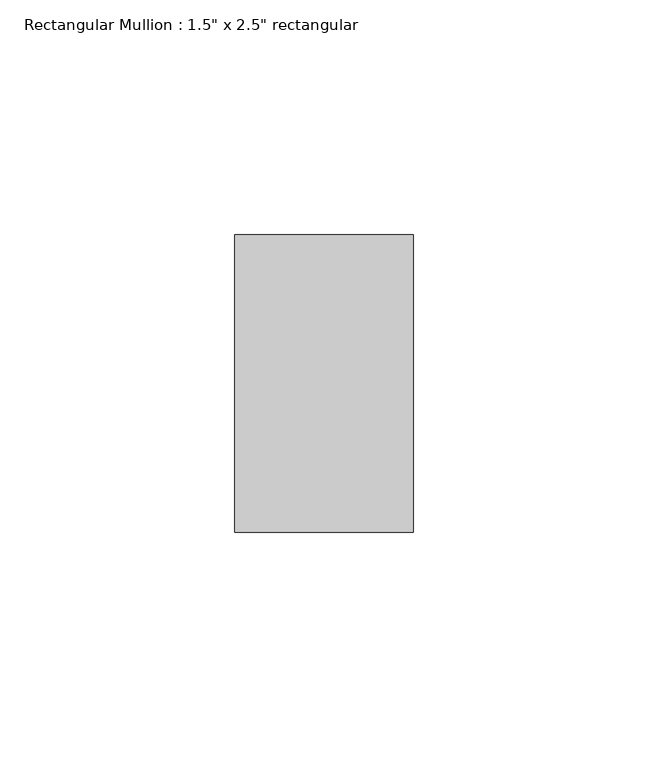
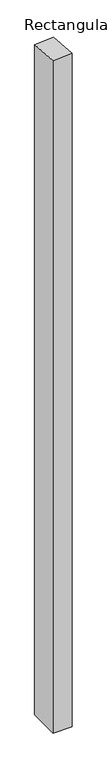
"""IFC4 building model written with IfcOpenShell, lengths in millimetres: member geometry."""

import ifcopenshell
import ifcopenshell.guid

model = None  # the IFC model being written
_history = None  # IfcOwnerHistory: only IFC2X3 demands one
_inside = {}  # id of a spatial element -> (the spatial element, [elements in it])
_under = {}  # id of a project, library or spatial element -> (it, [spatial elements below it])
_declared = {}  # id of a project -> (the project, [libraries it declares])
_typed = {}  # id of a type object -> (the type object, [elements of that type])
_made_of = {}  # id of a material, layer set ... -> (it, [elements and type objects made of it])


def new_model(schema):
    """Start an empty IFC model of exactly this schema.

    Asked for "IFC4X3", IfcOpenShell would pick the latest addendum, in which some entities
    have other attributes; the version numbers below select the first issue.
    IFC2X3 requires an IfcOwnerHistory on every rooted entity: one is made here for all.
    """
    global model, _history
    if schema == "IFC4X3":
        model = ifcopenshell.file(schema_version=(4, 3, 0, 0))
    else:
        model = ifcopenshell.file(schema=schema)
    _inside.clear()
    _under.clear()
    _declared.clear()
    _typed.clear()
    _made_of.clear()
    _history = None
    if model.schema == "IFC2X3":
        org = make("IfcOrganization", Name="unknown")
        user = make(
            "IfcPersonAndOrganization",
            ThePerson=make("IfcPerson", FamilyName="unknown"),
            TheOrganization=org,
        )
        app = make(
            "IfcApplication",
            ApplicationDeveloper=org,
            Version="unknown",
            ApplicationFullName="unknown",
            ApplicationIdentifier="unknown",
        )
        _history = make(
            "IfcOwnerHistory",
            OwningUser=user,
            OwningApplication=app,
            ChangeAction="ADDED",
            CreationDate=0,
        )
    return model


def make(cls, **values):
    """One entity of the class cls with the attributes given. An attribute that is None is left unset."""
    return model.create_entity(
        cls, **{name: value for name, value in values.items() if value is not None}
    )


def rooted(cls, **values):
    """An entity with a GlobalId (a new one), such as an element, a storey or a relation."""
    return make(cls, GlobalId=ifcopenshell.guid.new(), OwnerHistory=_history, **values)


def si_unit(unit_type, name, prefix=None):
    """IfcSIUnit, for example si_unit("LENGTHUNIT", "METRE", prefix="MILLI")."""
    return make("IfcSIUnit", UnitType=unit_type, Prefix=prefix, Name=name)


def assignment(units):
    """IfcUnitAssignment: the units of a project."""
    return None if units is None else make("IfcUnitAssignment", Units=units)


def point(xyz):
    """IfcCartesianPoint."""
    return None if xyz is None else make("IfcCartesianPoint", Coordinates=xyz)


def direction(xyz):
    """IfcDirection."""
    return None if xyz is None else make("IfcDirection", DirectionRatios=xyz)


def frame(location, z_axis=None, x_axis=None):
    """IfcAxis2Placement3D, a coordinate frame: its origin and axes. An axis left out is left unset."""
    return make(
        "IfcAxis2Placement3D",
        Location=point(location),
        Axis=direction(z_axis),
        RefDirection=direction(x_axis),
    )


def origin():
    """The frame at (0, 0, 0) with its axes left unset."""
    return frame((0.0, 0.0, 0.0))


def place(relative_to, where):
    """IfcLocalPlacement: puts the frame where relative to a parent placement (None: the world)."""
    return make(
        "IfcLocalPlacement", PlacementRelTo=relative_to, RelativePlacement=where
    )


def context(
    kind, dimensions, precision=None, world=None, true_north=None, identifier=None
):
    """IfcGeometricRepresentationContext, for example the 3D "Model" context."""
    return make(
        "IfcGeometricRepresentationContext",
        ContextIdentifier=identifier,
        ContextType=kind,
        CoordinateSpaceDimension=dimensions,
        Precision=precision,
        WorldCoordinateSystem=world,
        TrueNorth=true_north,
    )


def project(units=None, contexts=None):
    """IfcProject with its units and contexts."""
    return rooted(
        "IfcProject",
        Name="project",
        RepresentationContexts=contexts,
        UnitsInContext=assignment(units),
    )


def spatial(cls, under=None, at=None, **own):
    """A site, building, storey or space (cls), placed at a placement, below another one or the project."""
    s = rooted(cls, ObjectPlacement=at, **own)
    if under is not None:
        _under.setdefault(under.id(), (under, []))[1].append(s)
    return s


def faces_of(points, faces, orient=None, outer=None):
    """IfcFace entities. A face is a list of loops; a loop is a list of indices into points, from 0.

    orient and outer hold one flag for each loop. By default every Orientation is true, the
    first loop of a face is its IfcFaceOuterBound and the others are IfcFaceBound.
    """
    made = []
    for i, loops in enumerate(faces):
        bounds = []
        for j, loop in enumerate(loops):
            is_outer = j == 0 if outer is None else outer[i][j]
            bounds.append(
                make(
                    "IfcFaceOuterBound" if is_outer else "IfcFaceBound",
                    Bound=make("IfcPolyLoop", Polygon=[points[k] for k in loop]),
                    Orientation=True if orient is None else orient[i][j],
                )
            )
        made.append(make("IfcFace", Bounds=bounds))
    return made


def faceted_brep(points, faces, orient=None, outer=None, voids=None):
    """IfcFacetedBrep: a solid bounded by flat faces; with voids (closed shells), ...WithVoids."""
    shared = [point(p) for p in points]
    hull = make("IfcClosedShell", CfsFaces=faces_of(shared, faces, orient, outer))
    if voids is None:
        return make("IfcFacetedBrep", Outer=hull)
    return make(
        "IfcFacetedBrepWithVoids",
        Outer=hull,
        Voids=[
            make(cls, CfsFaces=faces_of(shared, fs, o, b)) for cls, fs, o, b in voids
        ],
    )


def shape(context_of_items, identifier, shape_type, items):
    """IfcShapeRepresentation: the items that make up one representation, for example the "Body"."""
    return make(
        "IfcShapeRepresentation",
        ContextOfItems=context_of_items,
        RepresentationIdentifier=identifier,
        RepresentationType=shape_type,
        Items=items,
    )


def source(mapping_origin, context_of_items, identifier, shape_type, items):
    """IfcRepresentationMap: a shape defined once, which mapped items show again and again."""
    return make(
        "IfcRepresentationMap",
        MappingOrigin=mapping_origin,
        MappedRepresentation=shape(context_of_items, identifier, shape_type, items),
    )


def transform(
    local_origin,
    x_axis=None,
    y_axis=None,
    z_axis=None,
    scale=None,
    scale2=None,
    scale3=None,
    uniform=True,
):
    """IfcCartesianTransformationOperator3D, or its non-uniform kind. x_axis, y_axis, z_axis: its Axis1, 2, 3."""
    if uniform:
        return make(
            "IfcCartesianTransformationOperator3D",
            Axis1=direction(x_axis),
            Axis2=direction(y_axis),
            LocalOrigin=point(local_origin),
            Scale=scale,
            Axis3=direction(z_axis),
        )
    return make(
        "IfcCartesianTransformationOperator3DnonUniform",
        Axis1=direction(x_axis),
        Axis2=direction(y_axis),
        LocalOrigin=point(local_origin),
        Scale=scale,
        Axis3=direction(z_axis),
        Scale2=scale2,
        Scale3=scale3,
    )


def mapped(mapping_source, mapping_target):
    """IfcMappedItem: shows the shape of a source again, moved by a transform."""
    return make(
        "IfcMappedItem", MappingSource=mapping_source, MappingTarget=mapping_target
    )


def made_of(thing, what):
    """Note that an element or type object is made of a material, layer set ...; save() writes the relation."""
    if what is not None:
        _made_of.setdefault(what.id(), (what, []))[1].append(thing)
    return thing


def element(
    cls,
    number,
    at=None,
    inside=None,
    cuts=None,
    type_object=None,
    material=None,
    context=None,
    identifier="Body",
    shape_type=None,
    held_by="IfcProductDefinitionShape",
    body=None,
    shapes=None,
    **own,
):
    """One element of the class cls, such as IfcWall. Its Tag is "e" and its number.

    at: its placement. inside: the storey or other place that contains it. cuts: it is an
    opening in that element (IfcRelVoidsElement). A single representation is given by context,
    identifier, shape_type and body (its items); several are given by shapes. held_by: the class
    of the entity that holds the representations. save() writes the other relations.
    """
    e = rooted(cls, Tag="e%d" % number, ObjectPlacement=at, **own)
    if body is not None:
        shapes = [shape(context, identifier, shape_type, body)]
    if shapes is not None:
        e.Representation = make(held_by, Representations=shapes)
    if inside is not None:
        _inside.setdefault(inside.id(), (inside, []))[1].append(e)
    if cuts is not None:
        rooted(
            "IfcRelVoidsElement", RelatingBuildingElement=cuts, RelatedOpeningElement=e
        )
    if type_object is not None:
        _typed.setdefault(type_object.id(), (type_object, []))[1].append(e)
    return made_of(e, material)


def aggregate(whole, parts):
    """IfcRelAggregates: a whole, such as a stair, and the parts it consists of."""
    return rooted("IfcRelAggregates", RelatingObject=whole, RelatedObjects=parts)


def save(model, path):
    """Write the relations noted so far, then the file.

    IfcRelAggregates (storeys below a building ...), IfcRelContainedInSpatialStructure (elements
    in a storey), IfcRelDefinesByType, IfcRelAssociatesMaterial and IfcRelDeclares: one each for
    every whole, place, type object, material and project.
    """
    for whole, parts in _under.values():
        aggregate(whole, parts)
    for where, things in _inside.values():
        rooted(
            "IfcRelContainedInSpatialStructure",
            RelatedElements=things,
            RelatingStructure=where,
        )
    for kind, things in _typed.values():
        rooted("IfcRelDefinesByType", RelatedObjects=things, RelatingType=kind)
    for what, things in _made_of.values():
        rooted("IfcRelAssociatesMaterial", RelatedObjects=things, RelatingMaterial=what)
    for by, libraries in _declared.values():
        rooted("IfcRelDeclares", RelatingContext=by, RelatedDefinitions=libraries)
    model.write(path)


def member_295a5b2f(model_context):
    return source(origin(), model_context, "Body", "Brep", [
        faceted_brep([(0.0, 31.75, -1428.5679826), (0.0, -31.75, -1428.5679826), (-38.1, -31.75, -1428.5679826), (-38.1, 31.75, -1428.5679826), (-38.1, 31.75, -4.9957584), (0.0, 31.75, -2.2757374), (-38.1, -31.75, -0.4442836), (0.0, -31.75, 2.2757374)], [[[0, 1, 2, 3]], [[4, 5, 0, 3]], [[6, 4, 3, 2]], [[7, 6, 2, 1]], [[5, 7, 1, 0]], [[5, 4, 6, 7]]]),
    ])


if __name__ == "__main__":
    model = new_model("IFC4")
    model_context = context("Model", 3, world=origin())
    ifc_project = project(units=[si_unit("LENGTHUNIT", "METRE", prefix="MILLI")], contexts=[model_context])
    site = spatial("IfcSite", under=ifc_project)
    building = spatial("IfcBuilding", under=site)
    placement = place(None, origin())
    member_shape = member_295a5b2f(model_context)
    element("IfcMember", 1, ObjectType="Rectangular Mullion : 1.5\" x 2.5\" rectangular", at=placement, inside=building, context=model_context, shape_type="MappedRepresentation", body=[
        mapped(member_shape, transform((0.0, 0.0, 0.0), x_axis=(1.0, 0.0, 0.0), y_axis=(0.0, 1.0, 0.0), z_axis=(0.0, 0.0, 1.0))),
    ])
    save(model, "model.ifc")
